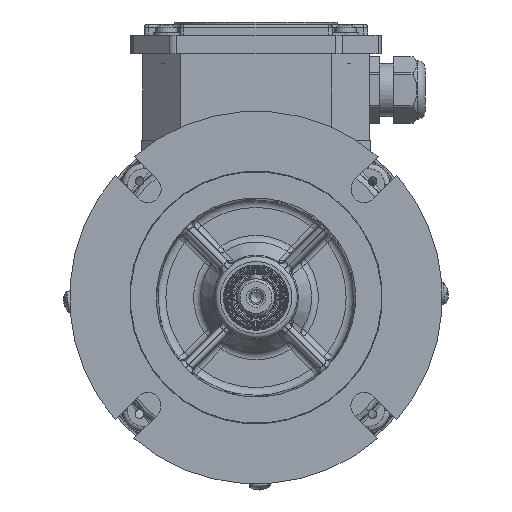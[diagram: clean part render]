
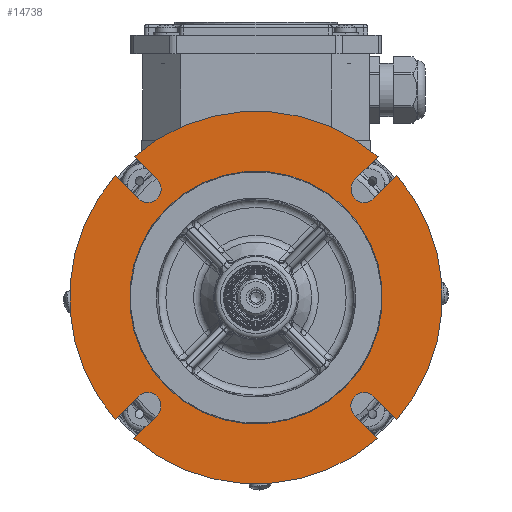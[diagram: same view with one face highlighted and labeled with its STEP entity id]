
A CAD part, front view. The second image highlights one B-rep face of the part: STEP entity #14738.
In plain terms, the highlighted planar face has unit normal (0, -1, 0).
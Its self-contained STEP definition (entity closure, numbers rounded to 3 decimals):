
#3063=LINE('',#74061,#6082);
#3064=LINE('',#74065,#6083);
#3065=LINE('',#74066,#6084);
#3066=LINE('',#74070,#6085);
#3067=LINE('',#74071,#6086);
#3068=LINE('',#74075,#6087);
#3069=LINE('',#74079,#6088);
#3070=LINE('',#74083,#6089);
#6082=VECTOR('',#56780,1.);
#6083=VECTOR('',#56783,1.);
#6084=VECTOR('',#56784,1.);
#6085=VECTOR('',#56787,1.);
#6086=VECTOR('',#56788,1.);
#6087=VECTOR('',#56791,1.);
#6088=VECTOR('',#56794,1.);
#6089=VECTOR('',#56797,1.);
#12411=PLANE('',#49684);
#14738=ADVANCED_FACE('',(#17260,#17261),#12411,.T.);
#17260=FACE_BOUND('',#18983,.T.);
#17261=FACE_BOUND('',#18984,.T.);
#18983=EDGE_LOOP('',(#25418,#25419,#25420,#25421,#25422,#25423,#25424,#25425,
#25426,#25427,#25428,#25429,#25430,#25431,#25432,#25433));
#18984=EDGE_LOOP('',(#25434));
#25418=ORIENTED_EDGE('',*,*,#41247,.F.);
#25419=ORIENTED_EDGE('',*,*,#41248,.F.);
#25420=ORIENTED_EDGE('',*,*,#41249,.F.);
#25421=ORIENTED_EDGE('',*,*,#41218,.T.);
#25422=ORIENTED_EDGE('',*,*,#41250,.F.);
#25423=ORIENTED_EDGE('',*,*,#41251,.F.);
#25424=ORIENTED_EDGE('',*,*,#41252,.F.);
#25425=ORIENTED_EDGE('',*,*,#41221,.T.);
#25426=ORIENTED_EDGE('',*,*,#41253,.F.);
#25427=ORIENTED_EDGE('',*,*,#41254,.F.);
#25428=ORIENTED_EDGE('',*,*,#41255,.F.);
#25429=ORIENTED_EDGE('',*,*,#41256,.T.);
#25430=ORIENTED_EDGE('',*,*,#41257,.F.);
#25431=ORIENTED_EDGE('',*,*,#41258,.F.);
#25432=ORIENTED_EDGE('',*,*,#41259,.F.);
#25433=ORIENTED_EDGE('',*,*,#41214,.T.);
#25434=ORIENTED_EDGE('',*,*,#41260,.T.);
#36089=VERTEX_POINT('',#73853);
#36090=VERTEX_POINT('',#73855);
#36091=VERTEX_POINT('',#73859);
#36092=VERTEX_POINT('',#73861);
#36093=VERTEX_POINT('',#73865);
#36094=VERTEX_POINT('',#73867);
#36120=VERTEX_POINT('',#74062);
#36121=VERTEX_POINT('',#74064);
#36122=VERTEX_POINT('',#74067);
#36123=VERTEX_POINT('',#74069);
#36124=VERTEX_POINT('',#74072);
#36125=VERTEX_POINT('',#74074);
#36126=VERTEX_POINT('',#74076);
#36127=VERTEX_POINT('',#74078);
#36128=VERTEX_POINT('',#74080);
#36129=VERTEX_POINT('',#74082);
#36130=VERTEX_POINT('',#74085);
#41214=EDGE_CURVE('',#36090,#36089,#46502,.T.);
#41218=EDGE_CURVE('',#36091,#36092,#46503,.T.);
#41221=EDGE_CURVE('',#36093,#36094,#46504,.T.);
#41247=EDGE_CURVE('',#36120,#36089,#3063,.T.);
#41248=EDGE_CURVE('',#36121,#36120,#46510,.T.);
#41249=EDGE_CURVE('',#36091,#36121,#3064,.T.);
#41250=EDGE_CURVE('',#36122,#36092,#3065,.T.);
#41251=EDGE_CURVE('',#36123,#36122,#46511,.T.);
#41252=EDGE_CURVE('',#36093,#36123,#3066,.T.);
#41253=EDGE_CURVE('',#36124,#36094,#3067,.T.);
#41254=EDGE_CURVE('',#36125,#36124,#46512,.T.);
#41255=EDGE_CURVE('',#36126,#36125,#3068,.T.);
#41256=EDGE_CURVE('',#36126,#36127,#46513,.T.);
#41257=EDGE_CURVE('',#36128,#36127,#3069,.T.);
#41258=EDGE_CURVE('',#36129,#36128,#46514,.T.);
#41259=EDGE_CURVE('',#36090,#36129,#3070,.T.);
#41260=EDGE_CURVE('',#36130,#36130,#46515,.T.);
#46502=CIRCLE('',#49666,70.);
#46503=CIRCLE('',#49668,70.);
#46504=CIRCLE('',#49670,70.);
#46510=CIRCLE('',#49678,5.);
#46511=CIRCLE('',#49679,5.);
#46512=CIRCLE('',#49680,5.);
#46513=CIRCLE('',#49681,70.);
#46514=CIRCLE('',#49682,5.);
#46515=CIRCLE('',#49683,47.5);
#49666=AXIS2_PLACEMENT_3D('',#73854,#56751,#56752);
#49668=AXIS2_PLACEMENT_3D('',#73862,#56758,#56759);
#49670=AXIS2_PLACEMENT_3D('',#73868,#56764,#56765);
#49678=AXIS2_PLACEMENT_3D('',#74063,#56781,#56782);
#49679=AXIS2_PLACEMENT_3D('',#74068,#56785,#56786);
#49680=AXIS2_PLACEMENT_3D('',#74073,#56789,#56790);
#49681=AXIS2_PLACEMENT_3D('',#74077,#56792,#56793);
#49682=AXIS2_PLACEMENT_3D('',#74081,#56795,#56796);
#49683=AXIS2_PLACEMENT_3D('',#74084,#56798,#56799);
#49684=AXIS2_PLACEMENT_3D('',#74086,#56800,#56801);
#56751=DIRECTION('',(0.,-1.,0.));
#56752=DIRECTION('',(0.707,0.,-0.708));
#56758=DIRECTION('',(0.,-1.,0.));
#56759=DIRECTION('',(0.707,0.,-0.708));
#56764=DIRECTION('',(0.,-1.,0.));
#56765=DIRECTION('',(0.707,0.,-0.708));
#56780=DIRECTION('',(-0.707,0.,0.708));
#56781=DIRECTION('',(0.,-1.,0.));
#56782=DIRECTION('',(0.708,0.,0.707));
#56783=DIRECTION('',(0.707,0.,-0.708));
#56784=DIRECTION('',(-0.708,0.,-0.707));
#56785=DIRECTION('',(0.,-1.,0.));
#56786=DIRECTION('',(-0.707,0.,0.708));
#56787=DIRECTION('',(0.708,0.,0.707));
#56788=DIRECTION('',(0.707,0.,-0.708));
#56789=DIRECTION('',(0.,-1.,0.));
#56790=DIRECTION('',(-0.708,0.,-0.707));
#56791=DIRECTION('',(-0.707,0.,0.708));
#56792=DIRECTION('',(0.,-1.,0.));
#56793=DIRECTION('',(0.707,0.,-0.708));
#56794=DIRECTION('',(0.708,0.,0.707));
#56795=DIRECTION('',(0.,-1.,0.));
#56796=DIRECTION('',(0.707,0.,-0.708));
#56797=DIRECTION('',(-0.708,0.,-0.707));
#56798=DIRECTION('',(0.,1.,0.));
#56799=DIRECTION('',(0.707,0.,-0.708));
#56800=DIRECTION('',(0.,-1.,0.));
#56801=DIRECTION('',(-0.707,0.,0.708));
#73853=CARTESIAN_POINT('',(-45.803,-47.,52.935));
#73854=CARTESIAN_POINT('',(0.,-47.,0.));
#73855=CARTESIAN_POINT('',(45.868,-47.,52.879));
#73859=CARTESIAN_POINT('',(-52.879,-47.,45.868));
#73861=CARTESIAN_POINT('',(-52.935,-47.,-45.803));
#73862=CARTESIAN_POINT('',(0.,-47.,0.));
#73865=CARTESIAN_POINT('',(-45.868,-47.,-52.879));
#73867=CARTESIAN_POINT('',(45.803,-47.,-52.935));
#73868=CARTESIAN_POINT('',(0.,-47.,0.));
#74061=CARTESIAN_POINT('',(-37.096,-47.,44.217));
#74062=CARTESIAN_POINT('',(-37.096,-47.,44.217));
#74063=CARTESIAN_POINT('',(-40.634,-47.,40.683));
#74064=CARTESIAN_POINT('',(-44.172,-47.,37.15));
#74065=CARTESIAN_POINT('',(-53.712,-47.,46.702));
#74066=CARTESIAN_POINT('',(-44.217,-47.,-37.096));
#74067=CARTESIAN_POINT('',(-44.217,-47.,-37.096));
#74068=CARTESIAN_POINT('',(-40.683,-47.,-40.634));
#74069=CARTESIAN_POINT('',(-37.15,-47.,-44.172));
#74070=CARTESIAN_POINT('',(-46.702,-47.,-53.712));
#74071=CARTESIAN_POINT('',(37.096,-47.,-44.217));
#74072=CARTESIAN_POINT('',(37.096,-47.,-44.217));
#74073=CARTESIAN_POINT('',(40.634,-47.,-40.683));
#74074=CARTESIAN_POINT('',(44.172,-47.,-37.15));
#74075=CARTESIAN_POINT('',(53.712,-47.,-46.702));
#74076=CARTESIAN_POINT('',(52.879,-47.,-45.868));
#74077=CARTESIAN_POINT('',(0.,-47.,0.));
#74078=CARTESIAN_POINT('',(52.935,-47.,45.803));
#74079=CARTESIAN_POINT('',(44.217,-47.,37.096));
#74080=CARTESIAN_POINT('',(44.217,-47.,37.096));
#74081=CARTESIAN_POINT('',(40.683,-47.,40.634));
#74082=CARTESIAN_POINT('',(37.15,-47.,44.172));
#74083=CARTESIAN_POINT('',(46.702,-47.,53.712));
#74084=CARTESIAN_POINT('',(0.,-47.,0.));
#74085=CARTESIAN_POINT('',(33.567,-47.,-33.608));
#74086=CARTESIAN_POINT('',(0.,-47.,0.));
